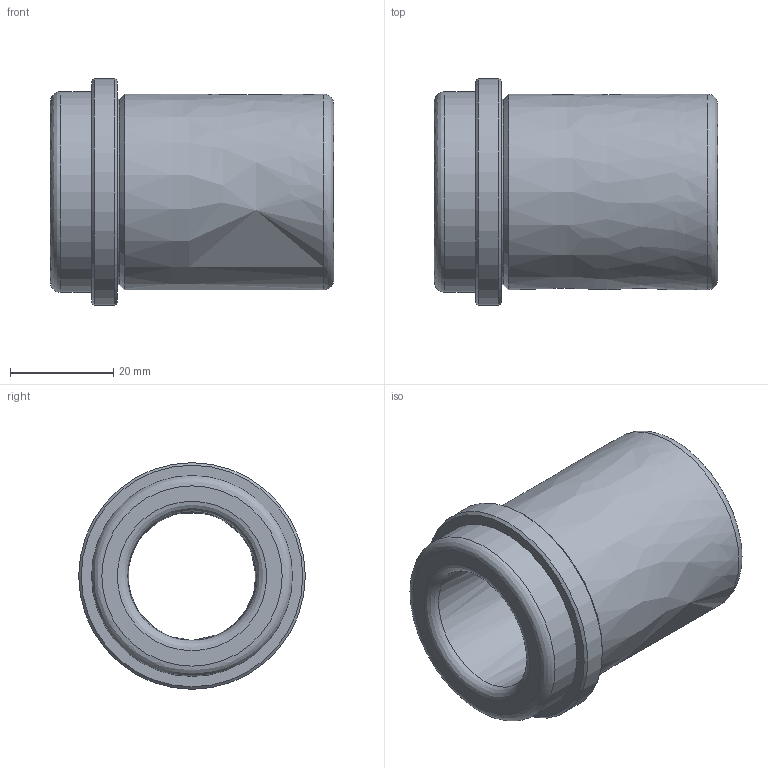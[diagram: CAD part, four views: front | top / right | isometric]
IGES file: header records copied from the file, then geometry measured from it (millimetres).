
Start section: Data from Parasolid IGES Translator 20.0.26, Copyright(c) 2006 Siemens P LM Software. All Rights Reserved.
Global section: file name: WZ - 4032 25 x 55.igs; native system: By Siemens PLM Incorporated; preprocessor: XPlus GENERIC/IGES 20.0.26; author: Noname; organization: Noname; date: 20201203.204148; units: millimetre
Bounding box: 55 x 44 x 44 mm (x, y, z)
Surface area: 13027.2 mm2 (no closed solid volume)
Topology: 0 solids, 0 shells, 19 faces, 70 edges, 48 vertices
Faces by surface type: revolution 14, extrusion 5
